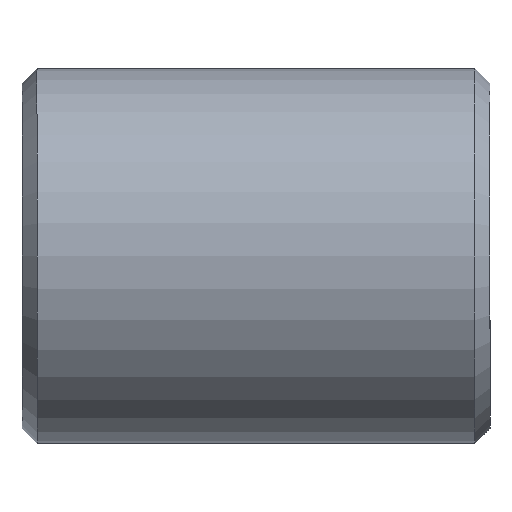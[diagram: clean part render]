
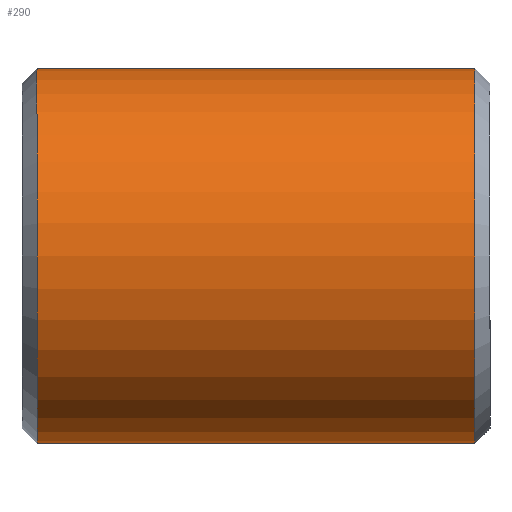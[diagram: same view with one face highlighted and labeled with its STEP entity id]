
A CAD part, front view. The second image highlights one B-rep face of the part: STEP entity #290.
In plain terms, the highlighted cylindrical face has radius 3.175 mm (diameter 6.35 mm), a partial arc.
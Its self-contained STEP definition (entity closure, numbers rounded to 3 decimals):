
#182=CARTESIAN_POINT('POINT13',(-7.671,0.,
   -3.175));
#183=VERTEX_POINT('VERTEX13',#182);
#191=CARTESIAN_POINT('POINT14',(-7.671,0.,
   3.175));
#192=VERTEX_POINT('VERTEX14',#191);
#199=CARTESIAN_POINT('POS20',(-7.671,0.,
   0.));
#200=DIRECTION('DIR31',(1.,0.,0.));
#201=DIRECTION('DIR32',(0.,0.,
   1.));
#202=AXIS2_PLACEMENT_3D('AXIS12',#199,#200,#201);
#203=CIRCLE('ELLIPSE7',#202,3.175);
#214=CARTESIAN_POINT('POINT15',(-0.254,
   0.,3.175));
#215=VERTEX_POINT('VERTEX15',#214);
#223=CARTESIAN_POINT('POINT16',(-0.254,0.,
   -3.175));
#224=VERTEX_POINT('VERTEX16',#223);
#231=CARTESIAN_POINT('POS24',(-0.254,0.,0.
   ));
#232=DIRECTION('DIR37',(-1.,0.,0.));
#233=DIRECTION('DIR38',(0.,0.,
   1.));
#234=AXIS2_PLACEMENT_3D('AXIS14',#231,#232,#233);
#235=CIRCLE('ELLIPSE8',#234,3.175);
#247=EDGE_CURVE('EDGE25',#224,#215,#235,.T.);
#255=EDGE_CURVE('EDGE26',#192,#183,#203,.T.);
#262=CARTESIAN_POINT('POS26',(-3.962,0.,
   3.175));
#263=DIRECTION('DIR41',(1.,0.,0.));
#264=VECTOR('VEC11',#263,1.);
#265=LINE('STRAIGHT11',#262,#264);
#266=EDGE_CURVE('EDGE27',#192,#215,#265,.T.);
#269=CARTESIAN_POINT('POS27',(-3.962,0.,
   -3.175));
#270=DIRECTION('DIR42',(-1.,0.,0.));
#271=VECTOR('VEC12',#270,1.);
#272=LINE('STRAIGHT12',#269,#271);
#273=EDGE_CURVE('EDGE28',#224,#183,#272,.T.);
#278=CARTESIAN_POINT('POS28',(-3.962,0.,
   0.));
#279=DIRECTION('DIR43',(1.,0.,0.));
#280=DIRECTION('DIR44',(0.,0.,
   1.));
#281=AXIS2_PLACEMENT_3D('AXIS16',#278,#279,#280);
#282=CYLINDRICAL_SURFACE('CONE_SURF6',#281,3.175);
#284=ORIENTED_EDGE('COEDGE53',*,*,#266,.F.);
#285=ORIENTED_EDGE('COEDGE54',*,*,#255,.T.);
#286=ORIENTED_EDGE('COEDGE55',*,*,#273,.F.);
#287=ORIENTED_EDGE('COEDGE56',*,*,#247,.T.);
#288=EDGE_LOOP('NONE',(#284,#285,#286,#287));
#289=FACE_BOUND('LOOP1',#288,.T.);
#290=ADVANCED_FACE('FACE14',(#289),#282,.T.);
